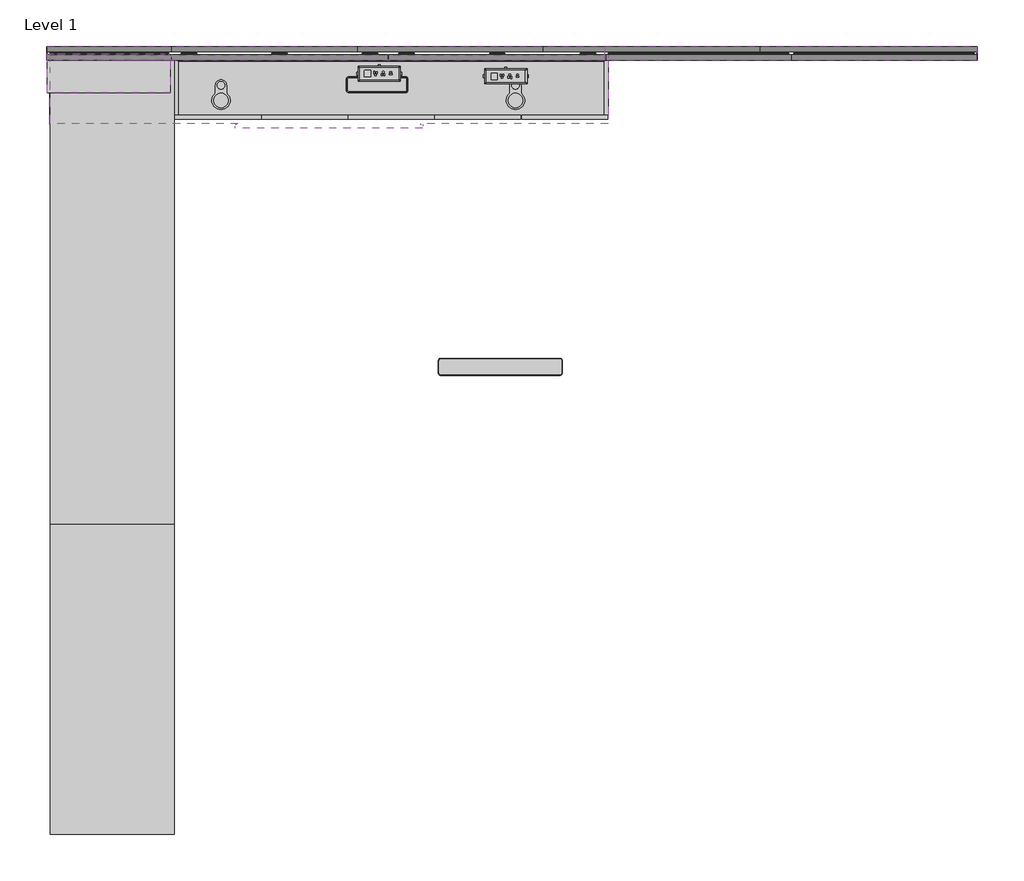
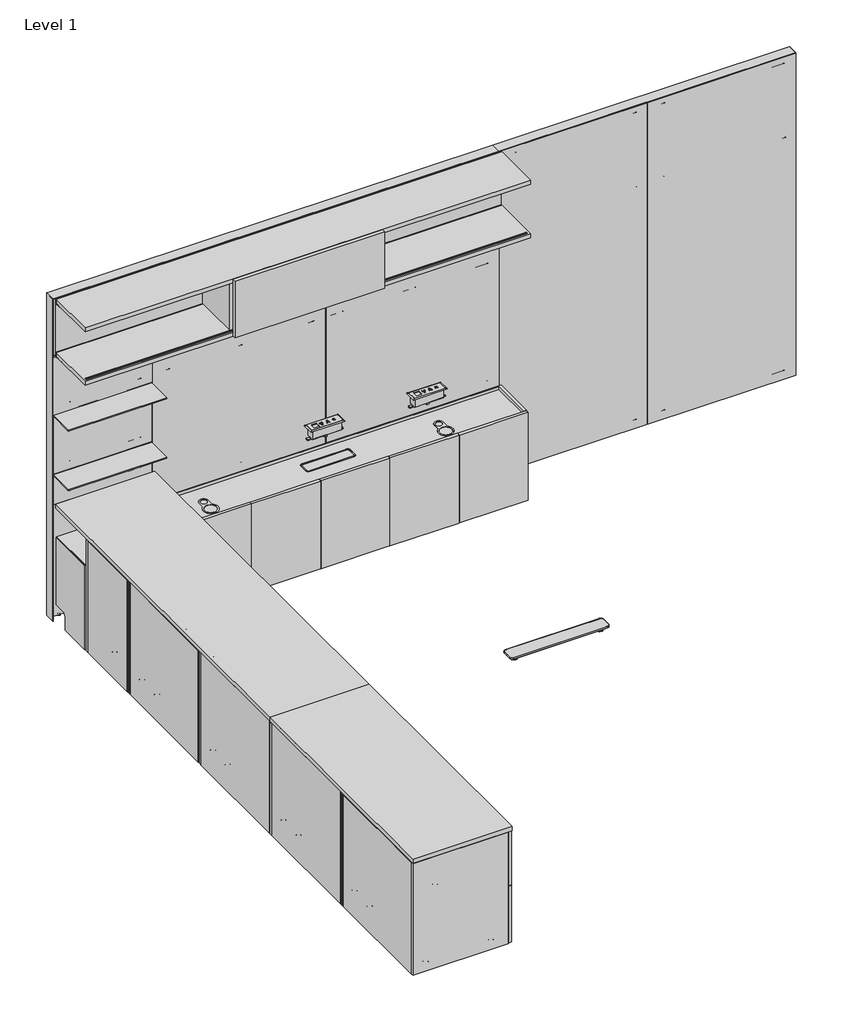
# One storey, incomplete: 31 furniture elements.
"""IFC4 building model written with IfcOpenShell, lengths in millimetres."""

from ifc_helpers import new_model, si_unit, origin, place, context, project, spatial, transform, mapped, element, save
from components import furniture_a0845434, furniture_30adaf94, furniture_fe314a8a, furniture_26ee6ef7, furniture_92bcbc96, furniture_f51cd963, furniture_af06311f, furniture_e7c824c4, furniture_f40e33f1, furniture_480000b2, furniture_9a9e18b9, furniture_9a5f5ad6, furniture_ac05d94e, furniture_2ffb538e, furniture_9b273c3e, furniture_950f9a17, furniture_ae0d72f6, furniture_a66f4f8e, furniture_62f48795, furniture_67171f7c, in_surface_33791ff7, t_foot_2f0a3af6

model = new_model("IFC4")

# Units and contexts
model_context = context("Model", 3, world=origin())
ifc_project = project(units=[si_unit("LENGTHUNIT", "METRE", prefix="MILLI")], contexts=[model_context])

# Site, building, storey
site = spatial("IfcSite", under=ifc_project)
building = spatial("IfcBuilding", under=site)
storey = spatial("IfcBuildingStorey", under=building, Name="Level 1", Elevation=0.0)

# Furniture
placement = place(None, origin())
furniture_shape = furniture_a0845434(model_context)
element("IfcFurniture", 1, ObjectType="Geiger_GeigerOneCasegoods_UtilityCabinetForUseWithLDeskAccepts2Legs : Vertical Veneer 84Wx 12Dx 22.5H", at=placement, inside=storey, context=model_context, shape_type="MappedRepresentation", body=[
    mapped(furniture_shape, transform((-724.9981766, 6533.4455508, 0.0), x_axis=(1.0, 0.0, 0.0), y_axis=(0.0, 1.0, 0.0), z_axis=(0.0, 0.0, 1.0))),
])
furniture_2_shape = furniture_30adaf94(model_context)
element("IfcFurniture", 2, ObjectType="Geiger_GeigerOneCasegoods_WallTileTopTileorWallMounted : Vertical Veneer 36Wx 1.25Dx 82.5H", at=placement, inside=storey, context=model_context, shape_type="MappedRepresentation", body=[
    mapped(furniture_2_shape, transform((1396.0059852, 6545.482236, 585.1906), x_axis=(1.0, 0.0, 0.0), y_axis=(0.0, 1.0, 0.0), z_axis=(0.0, 0.0, 1.0))),
])
element("IfcFurniture", 3, ObjectType="Geiger_GeigerOneCasegoods_WallTileTopTileorWallMounted : Vertical Veneer 36Wx 1.25Dx 82.5H", at=placement, inside=storey, context=model_context, shape_type="MappedRepresentation", body=[
    mapped(furniture_2_shape, transform((2309.0059852, 6545.482236, 585.1906), x_axis=(1.0, 0.0, 0.0), y_axis=(0.0, 1.0, 0.0), z_axis=(0.0, 0.0, 1.0))),
])
furniture_3_shape = furniture_fe314a8a(model_context)
element("IfcFurniture", 4, ObjectType="Geiger_GeigerOneCasegoods_WallTileAcceptsTileAbove : Vertical Veneer 42Wx 1.25Dx 45H", at=placement, inside=storey, context=model_context, shape_type="MappedRepresentation", body=[
    mapped(furniture_3_shape, transform((-741.3687604, 6545.5647992, 585.1906), x_axis=(1.0, 0.0, 0.0), y_axis=(0.0, 1.0, 0.0), z_axis=(0.0, 0.0, 1.0))),
])
element("IfcFurniture", 5, ObjectType="Geiger_GeigerOneCasegoods_WallTileAcceptsTileAbove : Vertical Veneer 42Wx 1.25Dx 45H", at=placement, inside=storey, context=model_context, shape_type="MappedRepresentation", body=[
    mapped(furniture_3_shape, transform((329.477618, 6545.5647992, 585.1906), x_axis=(1.0, 0.0, 0.0), y_axis=(0.0, 1.0, 0.0), z_axis=(0.0, 0.0, 1.0))),
])
furniture_4_shape = furniture_26ee6ef7(model_context)
element("IfcFurniture", 6, ObjectType="Geiger_GeigerOneCasegoods_OverheadStorageDoubleShelfWithSlidingDoor : TFL Shelves TFL Back 108Wx 14.125Dx 14.875H", at=placement, inside=storey, context=model_context, shape_type="MappedRepresentation", body=[
    mapped(furniture_4_shape, transform((-1335.4436867, 6550.3977928, 1728.724), x_axis=(1.0, 0.0, 0.0), y_axis=(0.0, 1.0, 0.0), z_axis=(0.0, 0.0, 1.0))),
])
furniture_5_shape = furniture_92bcbc96(model_context)
element("IfcFurniture", 7, ObjectType="Geiger_GeigerOneCasegoods_Casegoods_AccessoryShelf : 23.875Wx 6.5Dx 0.375H", at=placement, inside=storey, context=model_context, shape_type="MappedRepresentation", body=[
    mapped(furniture_5_shape, transform((-1350.4832188, 6524.1779992, 960.1454), x_axis=(1.0, 0.0, 0.0), y_axis=(0.0, 1.0, 0.0), z_axis=(0.0, 0.0, 1.0))),
])
element("IfcFurniture", 8, ObjectType="Geiger_GeigerOneCasegoods_Casegoods_AccessoryShelf : 23.875Wx 6.5Dx 0.375H", at=placement, inside=storey, context=model_context, shape_type="MappedRepresentation", body=[
    mapped(furniture_5_shape, transform((-1350.4832188, 6524.1779992, 1347.4954), x_axis=(1.0, 0.0, 0.0), y_axis=(0.0, 1.0, 0.0), z_axis=(0.0, 0.0, 1.0))),
])
furniture_6_shape = furniture_f51cd963(model_context)
element("IfcFurniture", 9, ObjectType="Geiger_GeigerOneCasegoods_WallTileAcceptsShelfandTileAbove : TFL 24Wx 1.25Dx 15H", at=placement, inside=storey, context=model_context, shape_type="MappedRepresentation", body=[
    mapped(furniture_6_shape, transform((-1350.9687604, 6551.9655992, 965.1238), x_axis=(1.0, 0.0, 0.0), y_axis=(0.0, 1.0, 0.0), z_axis=(0.0, 0.0, 1.0))),
])
furniture_7_shape = furniture_af06311f(model_context)
element("IfcFurniture", 10, ObjectType="Geiger_GeigerOneCasegoods_WallTileAcceptsTileAbove : TFL 24Wx 1.25Dx 15H", at=placement, inside=storey, context=model_context, shape_type="MappedRepresentation", body=[
    mapped(furniture_7_shape, transform((-1350.4832188, 6545.144736, 1347.898793), x_axis=(1.0, 0.0, 0.0), y_axis=(0.0, 1.0, 0.0), z_axis=(0.0, 0.0, 1.0))),
])
furniture_8_shape = furniture_e7c824c4(model_context)
element("IfcFurniture", 11, ObjectType="Geiger_GeigerOneCasegoods_WallTileAcceptsShelfandTileAbove : TFL 24Wx 1.25Dx 7.5H", at=placement, inside=storey, context=model_context, shape_type="MappedRepresentation", body=[
    mapped(furniture_8_shape, transform((-1350.9251773, 6551.9782992, 769.5946), x_axis=(1.0, 0.0, 0.0), y_axis=(0.0, 1.0, 0.0), z_axis=(0.0, 0.0, 1.0))),
])
furniture_9_shape = furniture_f40e33f1(model_context)
element("IfcFurniture", 12, ObjectType="Geiger_GeigerOneCasegoods_WallTopTrimSingleSidedWall : 72Wx2.625Dx0.125H", at=placement, inside=storey, context=model_context, shape_type="MappedRepresentation", body=[
    mapped(furniture_9_shape, transform((1392.7167812, 6552.482236, 2108.708), x_axis=(1.0, 0.0, 0.0), y_axis=(0.0, 1.0, 0.0), z_axis=(0.0, 0.0, 1.0))),
])
furniture_10_shape = furniture_480000b2(model_context)
element("IfcFurniture", 13, ObjectType="Geiger_GeigerOneCasegoods_WallTopTrimSingleSidedWall : 108Wx2.625Dx0.125H", at=placement, inside=storey, context=model_context, shape_type="MappedRepresentation", body=[
    mapped(furniture_10_shape, transform((-1350.4832188, 6552.482236, 2108.708), x_axis=(1.0, 0.0, 0.0), y_axis=(0.0, 1.0, 0.0), z_axis=(0.0, 0.0, 1.0))),
])
furniture_11_shape = furniture_9a9e18b9(model_context)
element("IfcFurniture", 14, ObjectType="Geiger_GeigerOneCasegoods_WallEndTrim : SingleSided 2.625Wx 0.125Dx 82.625H", at=placement, inside=storey, context=model_context, shape_type="MappedRepresentation", body=[
    mapped(furniture_11_shape, transform((3221.5167812, 6552.482236, 12.7), x_axis=(1.0, 0.0, 0.0), y_axis=(0.0, 1.0, 0.0), z_axis=(0.0, 0.0, 1.0))),
])
element("IfcFurniture", 15, ObjectType="Geiger_GeigerOneCasegoods_WallEndTrim : SingleSided 2.625Wx 0.125Dx 82.625H", at=placement, inside=storey, context=model_context, shape_type="MappedRepresentation", body=[
    mapped(furniture_11_shape, transform((-1353.6582188, 6552.482236, 12.7), x_axis=(1.0, 0.0, 0.0), y_axis=(0.0, 1.0, 0.0), z_axis=(0.0, 0.0, 1.0))),
])
furniture_12_shape = furniture_9a5f5ad6(model_context)
element("IfcFurniture", 16, ObjectType="Geiger_GeigerOneCasegoods_CredenzaTopDeskHeightPlain : Laminate 90Wx 24Dx 1.125H", at=placement, inside=storey, context=model_context, shape_type="MappedRepresentation", body=[
    mapped(furniture_12_shape, transform((-725.8436867, 6518.9122657, 742.0102), x_axis=(0.0, -1.0, 0.0), y_axis=(1.0, 0.0, 0.0), z_axis=(0.0, 0.0, 1.0))),
])
furniture_13_shape = furniture_ac05d94e(model_context)
element("IfcFurniture", 17, ObjectType="Geiger_GeigerOneCasegoods_CredenzaTopDeskHeightPlain : Laminate 60Wx 24Dx 1.125H", at=placement, inside=storey, context=model_context, shape_type="MappedRepresentation", body=[
    mapped(furniture_13_shape, transform((-725.8436867, 4232.9122657, 742.0102), x_axis=(0.0, -1.0, 0.0), y_axis=(1.0, 0.0, 0.0), z_axis=(0.0, 0.0, 1.0))),
])
furniture_14_shape = furniture_2ffb538e(model_context)
element("IfcFurniture", 18, ObjectType="Geiger_GeigerOneCasegoods_LowStorage2Files : TFL 30Wx24Dx28.75H", at=placement, inside=storey, context=model_context, shape_type="MappedRepresentation", body=[
    mapped(furniture_14_shape, transform((-1335.9436867, 2708.9122657, 0.0), x_axis=(0.0, 1.0, 0.0), y_axis=(-1.0, 0.0, 0.0), z_axis=(0.0, 0.0, 1.0))),
])
element("IfcFurniture", 19, ObjectType="Geiger_GeigerOneCasegoods_LowStorage2Files : TFL 30Wx24Dx28.75H", at=placement, inside=storey, context=model_context, shape_type="MappedRepresentation", body=[
    mapped(furniture_14_shape, transform((-1335.9436867, 3467.9122657, 0.0), x_axis=(0.0, 1.0, 0.0), y_axis=(-1.0, 0.0, 0.0), z_axis=(0.0, 0.0, 1.0))),
])
element("IfcFurniture", 20, ObjectType="Geiger_GeigerOneCasegoods_LowStorage2Files : TFL 30Wx24Dx28.75H", at=placement, inside=storey, context=model_context, shape_type="MappedRepresentation", body=[
    mapped(furniture_14_shape, transform((-1335.9436867, 4223.9122657, 0.0), x_axis=(0.0, 1.0, 0.0), y_axis=(-1.0, 0.0, 0.0), z_axis=(0.0, 0.0, 1.0))),
])
furniture_15_shape = furniture_9b273c3e(model_context)
element("IfcFurniture", 21, ObjectType="Geiger_GeigerOneCasegoods_LowStorage2Box1File : TFL 30Wx24Dx28.75H", at=placement, inside=storey, context=model_context, shape_type="MappedRepresentation", body=[
    mapped(furniture_15_shape, transform((-1335.4436867, 4978.8407997, 0.0), x_axis=(0.0, 1.0, 0.0), y_axis=(-1.0, 0.0, 0.0), z_axis=(0.0, 0.0, 1.0))),
])
furniture_16_shape = furniture_950f9a17(model_context)
element("IfcFurniture", 22, ObjectType="Geiger_GeigerOneCasegoods_LowStorageOpen : TFL 18Wx 24Dx28.75H", at=placement, inside=storey, context=model_context, shape_type="MappedRepresentation", body=[
    mapped(furniture_16_shape, transform((-1335.4436867, 5735.5524924, 0.0), x_axis=(0.0, 1.0, 0.0), y_axis=(-1.0, 0.0, 0.0), z_axis=(0.0, 0.0, 1.0))),
])
furniture_17_shape = furniture_ae0d72f6(model_context)
element("IfcFurniture", 23, ObjectType="Geiger_GeigerOneCasegoods_LowStorageCorner : TFL 24Wx12Dx21.75H", at=placement, inside=storey, context=model_context, shape_type="MappedRepresentation", body=[
    mapped(furniture_17_shape, transform((-1337.9836867, 6509.4875508, 0.0), x_axis=(1.0, 0.0, 0.0), y_axis=(0.0, 1.0, 0.0), z_axis=(0.0, 0.0, 1.0))),
])
furniture_18_shape = furniture_a66f4f8e(model_context)
element("IfcFurniture", 24, ObjectType="Geiger_GeigerOneCasegoods_WallFrameStandardApplication : 24Wx1Dx82.5H", at=placement, inside=storey, context=model_context, shape_type="MappedRepresentation", body=[
    mapped(furniture_18_shape, transform((-1350.4832188, 6585.819736, 0.0), x_axis=(1.0, 0.0, 0.0), y_axis=(0.0, 1.0, 0.0), z_axis=(0.0, 0.0, 1.0))),
])
furniture_19_shape = furniture_62f48795(model_context)
element("IfcFurniture", 25, ObjectType="Geiger_GeigerOneCasegoods_WallFrameStandardApplication : 36Wx1Dx82.5H", at=placement, inside=storey, context=model_context, shape_type="MappedRepresentation", body=[
    mapped(furniture_19_shape, transform((-740.8832188, 6585.819736, 0.0), x_axis=(1.0, 0.0, 0.0), y_axis=(0.0, 1.0, 0.0), z_axis=(0.0, 0.0, 1.0))),
])
element("IfcFurniture", 26, ObjectType="Geiger_GeigerOneCasegoods_WallFrameStandardApplication : 36Wx1Dx82.5H", at=placement, inside=storey, context=model_context, shape_type="MappedRepresentation", body=[
    mapped(furniture_19_shape, transform((173.5167812, 6585.819736, 0.0), x_axis=(1.0, 0.0, 0.0), y_axis=(0.0, 1.0, 0.0), z_axis=(0.0, 0.0, 1.0))),
])
furniture_20_shape = furniture_67171f7c(model_context)
element("IfcFurniture", 27, ObjectType="Geiger_GeigerOneCasegoods_WallFrameStandardApplication : 42Wx1Dx82.5H", at=placement, inside=storey, context=model_context, shape_type="MappedRepresentation", body=[
    mapped(furniture_20_shape, transform((1087.9167812, 6585.819736, 0.0), x_axis=(1.0, 0.0, 0.0), y_axis=(0.0, 1.0, 0.0), z_axis=(0.0, 0.0, 1.0))),
])
element("IfcFurniture", 28, ObjectType="Geiger_GeigerOneCasegoods_WallFrameStandardApplication : 42Wx1Dx82.5H", at=placement, inside=storey, context=model_context, shape_type="MappedRepresentation", body=[
    mapped(furniture_20_shape, transform((2154.7167812, 6585.819736, 0.0), x_axis=(1.0, 0.0, 0.0), y_axis=(0.0, 1.0, 0.0), z_axis=(0.0, 0.0, 1.0))),
])
in_surface_shape = in_surface_33791ff7(model_context)
element("IfcFurniture", 29, ObjectType="Geiger_GeigerOneCasegoods_PowerComponent2PowerOutlets1USBA1USBC : In Surface", at=placement, inside=storey, context=model_context, shape_type="MappedRepresentation", body=[
    mapped(in_surface_shape, transform((905.4462578, 6439.7011915, 769.5946), x_axis=(1.0, 0.0, 0.0), y_axis=(0.0, 1.0, 0.0), z_axis=(0.0, 0.0, 1.0))),
])
element("IfcFurniture", 30, ObjectType="Geiger_GeigerOneCasegoods_PowerComponent2PowerOutlets1USBA1USBC : In Surface", at=placement, inside=storey, context=model_context, shape_type="MappedRepresentation", body=[
    mapped(in_surface_shape, transform((282.7198381, 6452.4011915, 769.5946), x_axis=(1.0, 0.0, 0.0), y_axis=(0.0, 1.0, 0.0), z_axis=(0.0, 0.0, 1.0))),
])
t_foot_shape = t_foot_2f0a3af6(model_context)
element("IfcFurniture", 31, ObjectType="Geiger_GeigerOneCasegoods_LegSupport : T Foot", at=placement, inside=storey, context=model_context, shape_type="MappedRepresentation", body=[
    mapped(t_foot_shape, transform((878.1078905, 5009.776766, 6.35), x_axis=(1.0, 0.0, 0.0), y_axis=(0.0, 1.0, 0.0), z_axis=(0.0, 0.0, 1.0))),
])

save(model, "model.ifc")
